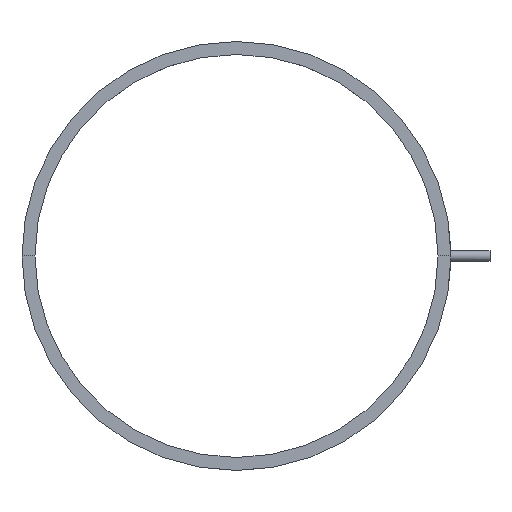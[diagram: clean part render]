
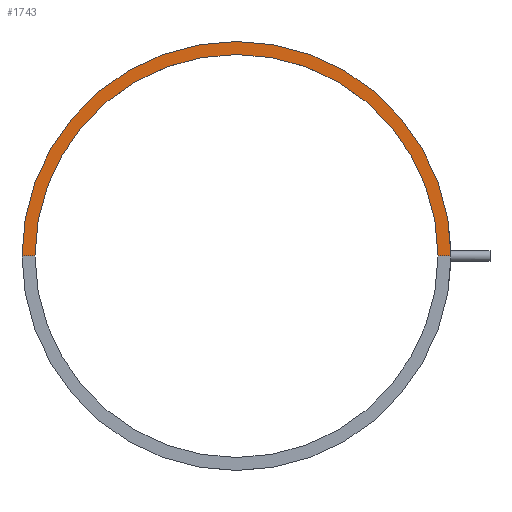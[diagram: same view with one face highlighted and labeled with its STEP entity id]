
A CAD part, top view. The second image highlights one B-rep face of the part: STEP entity #1743.
In plain terms, the highlighted planar face has unit normal (0, 0, 1).
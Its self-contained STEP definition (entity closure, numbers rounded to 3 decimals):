
#5=CARTESIAN_POINT('',(49.5,0.0,56.5));
#6=CARTESIAN_POINT('',(-49.5,0.0,56.5));
#7=CARTESIAN_POINT('',(46.5,0.0,56.5));
#8=CARTESIAN_POINT('',(-46.5,0.0,56.5));
#179=CARTESIAN_POINT('',(0.0,0.0,56.5));
#180=DIRECTION('',(0.0,0.0,1.0));
#181=DIRECTION('',(1.0,0.0,0.0));
#182=AXIS2_PLACEMENT_3D('',#179,#180,#181);
#183=CIRCLE('',#182,49.5);
#184=TRIMMED_CURVE('',#183,(#5),(#6),.T.,.CARTESIAN.);
#597=DIRECTION('',(1.0,0.0,0.0));
#598=VECTOR('',#597,1.0);
#599=LINE('',#6,#598);
#600=CARTESIAN_POINT('',(0.0,0.0,56.5));
#601=DIRECTION('',(0.0,0.0,1.0));
#602=DIRECTION('',(1.0,0.0,0.0));
#603=AXIS2_PLACEMENT_3D('',#600,#601,#602);
#604=CIRCLE('',#603,46.5);
#605=TRIMMED_CURVE('',#604,(#7),(#8),.T.,.CARTESIAN.);
#606=DIRECTION('',(-1.0,0.0,0.0));
#607=VECTOR('',#606,1.0);
#608=LINE('',#5,#607);
#957=CARTESIAN_POINT('',(0.0,0.0,56.5));
#958=DIRECTION('',(0.0,0.0,1.0));
#959=DIRECTION('',(1.0,0.0,0.0));
#960=AXIS2_PLACEMENT_3D('',#957,#958,#959);
#961=PLANE('',#960);
#1051=VERTEX_POINT('',#5);
#1052=VERTEX_POINT('',#6);
#1053=VERTEX_POINT('',#7);
#1054=VERTEX_POINT('',#8);
#1199=EDGE_CURVE('',#1051,#1052,#184,.T.);
#1283=EDGE_CURVE('',#1052,#1054,#599,.T.);
#1284=EDGE_CURVE('',#1053,#1054,#605,.T.);
#1285=EDGE_CURVE('',#1051,#1053,#608,.T.);
#1455=ORIENTED_EDGE('',*,*,#1199,.T.);
#1456=ORIENTED_EDGE('',*,*,#1283,.T.);
#1457=ORIENTED_EDGE('',*,*,#1284,.F.);
#1458=ORIENTED_EDGE('',*,*,#1285,.F.);
#1691=EDGE_LOOP('',(#1455,#1456,#1457,#1458));
#1717=FACE_OUTER_BOUND('',#1691,.T.);
#1743=ADVANCED_FACE('',(#1717),#961,.T.);
